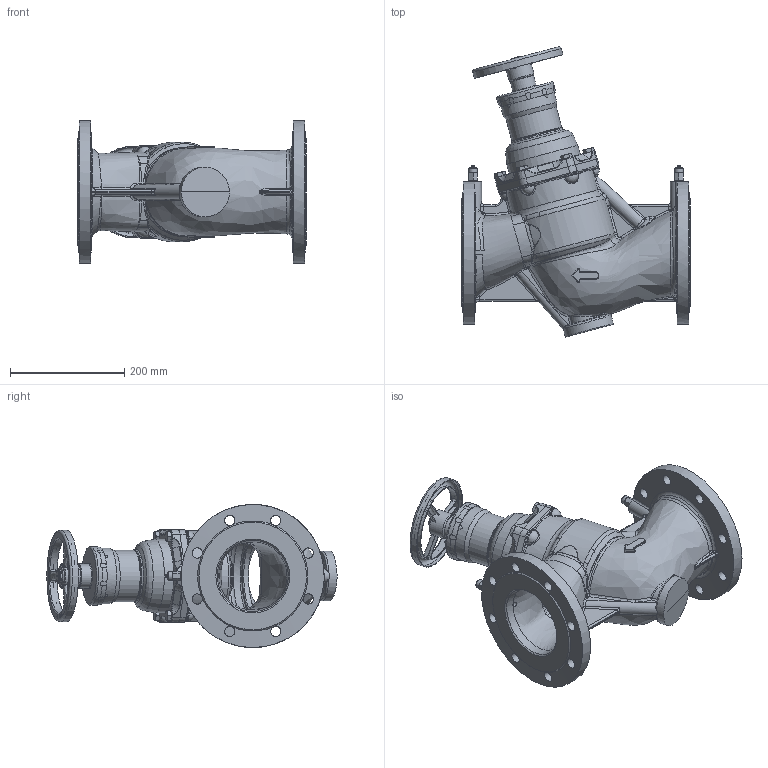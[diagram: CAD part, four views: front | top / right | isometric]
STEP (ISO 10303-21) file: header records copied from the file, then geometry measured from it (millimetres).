
FILE_DESCRIPTION (( 'STEP AP203' ), '1' );
FILE_NAME ('EKOFLUX.S_DN125.STEP', '2013-01-17T12:45:39', ( 'luca.saino' ), ( 'Hewlett-Packard Company' ), 'SwSTEP 2.0', 'SolidWorks 2012', '' );
FILE_SCHEMA (( 'CONFIG_CONTROL_DESIGN' ));
Length unit declared in the file: millimetre
Products named in the file (1): EKOFLUX.S_DN125
Bounding box: 400 x 507.25 x 249.84 mm (x, y, z)
Volume: 6775203 mm3; surface area: 748240.4 mm2
Topology: 1 solids, 9 shells, 1653 faces, 4193 edges, 2505 vertices
Faces by surface type: bspline 770, plane 367, cylinder 205, cone 177, torus 107, sphere 27
Full cylindrical faces by diameter (mm): 5 x2, 6.5 x2, 8 x2, 8.5 x4, 11.5 x2, 15 x4, 18 x16, 20 x1, 22 x1, 23.388 x1, 42 x1, 45 x1, 87 x1, 90 x1, 97 x1, 103 x1, 124 x1, 125 x1, 128.5 x1, 130 x1, 132 x1, 133 x1, 136 x1, 157 x1, 160 x1
Entity records: 96900 total; most frequent: CARTESIAN_POINT 64598, ORIENTED_EDGE 7910, DIRECTION 4937, EDGE_CURVE 3955, VERTEX_POINT 2432, AXIS2_PLACEMENT_3D 2076, B_SPLINE_CURVE_WITH_KNOTS 1924, EDGE_LOOP 1803
